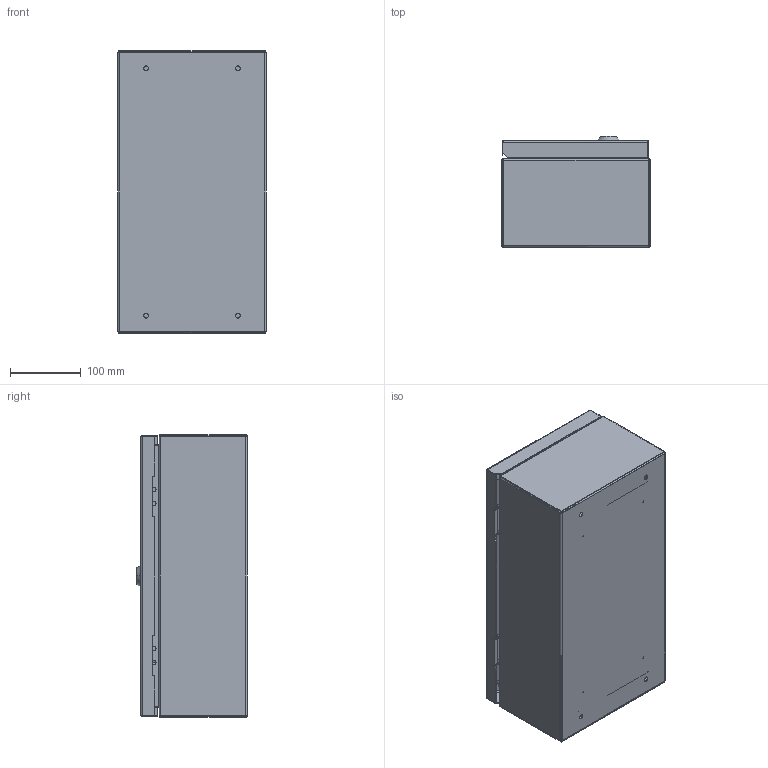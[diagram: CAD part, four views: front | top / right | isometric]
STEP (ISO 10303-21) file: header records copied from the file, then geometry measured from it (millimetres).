
FILE_DESCRIPTION (( 'STEP AP214' ), '1' );
FILE_NAME ('ÙÌÏ-421-400õ210õ150-IP54-ÓÕË2-ÊÝÀÇ.STEP', '2023-01-24T12:09:25', ( '' ), ( '' ), 'SwSTEP 2.0', 'SolidWorks 2018', '' );
FILE_SCHEMA (( 'AUTOMOTIVE_DESIGN' ));
Length unit declared in the file: millimetre
Products named in the file (1): ÙÌÏ-421-400õ210õ150-IP54-ÓÕË2-ÊÝÀÇ
Bounding box: 210 x 156.7 x 400 mm (x, y, z)
Surface area: 821210.3 mm2 (no closed solid volume)
Topology: 0 solids, 33 shells, 231 faces, 759 edges, 545 vertices
Faces by surface type: plane 116, cylinder 71, bspline 24, torus 16, sphere 2, cone 2
Entity records: 12231 total; most frequent: CARTESIAN_POINT 3184, DIRECTION 1333, ORIENTED_EDGE 1146, EDGE_CURVE 759, VERTEX_POINT 545, VECTOR 449, LINE 449, AXIS2_PLACEMENT_3D 442
